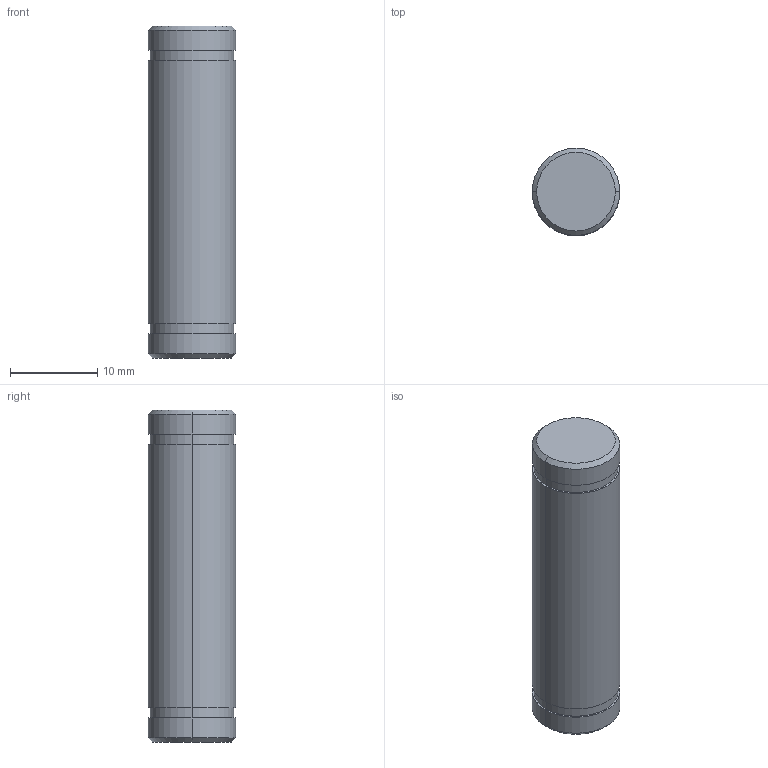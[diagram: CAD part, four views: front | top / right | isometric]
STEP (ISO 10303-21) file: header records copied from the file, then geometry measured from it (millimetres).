
FILE_DESCRIPTION (( 'STEP AP214' ), '1' );
FILE_NAME ('シャフト.STEP', '2025-04-18T02:01:36', ( '' ), ( '' ), 'SwSTEP 2.0', 'SolidWorks 2023', '' );
FILE_SCHEMA (( 'AUTOMOTIVE_DESIGN' ));
Length unit declared in the file: millimetre
Products named in the file (1): シャフト
Bounding box: 10 x 10 x 38 mm (x, y, z)
Volume: 2962.8 mm3; surface area: 1353.6 mm2
Topology: 1 solids, 1 shells, 20 faces, 38 edges, 24 vertices
Faces by surface type: cylinder 10, plane 6, cone 4
Entity records: 537 total; most frequent: DIRECTION 104, CARTESIAN_POINT 83, ORIENTED_EDGE 76, AXIS2_PLACEMENT_3D 45, EDGE_CURVE 38, EDGE_LOOP 24, VERTEX_POINT 24, CIRCLE 24
